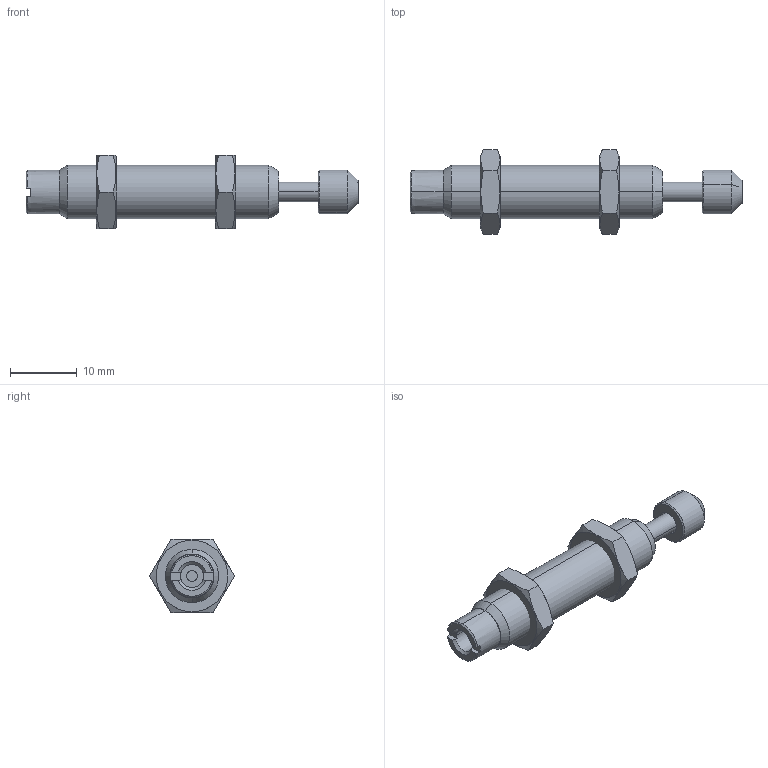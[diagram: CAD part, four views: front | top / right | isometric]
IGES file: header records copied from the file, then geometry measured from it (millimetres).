
Start section: SolidWorks IGES file using analytic representation for surfaces
Global section: file name: D:\IGS跡宒\AC0806(P0.75).IGS,1; native system: 5HSolidWorks 2013; preprocessor: SolidWorks 2013; author: Administrator; date: 160412.105638; units: inch
Bounding box: 49.9 x 12.7 x 11 mm (x, y, z)
Surface area: 1849.6 mm2 (no closed solid volume)
Topology: 0 solids, 0 shells, 69 faces, 1129 edges, 1129 vertices
Faces by surface type: revolution 39, bspline 30
